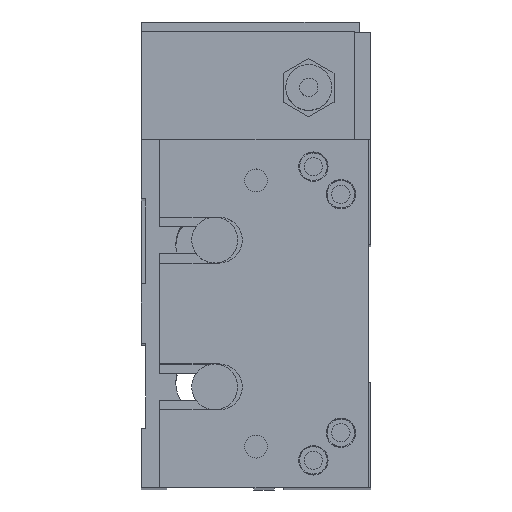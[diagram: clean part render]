
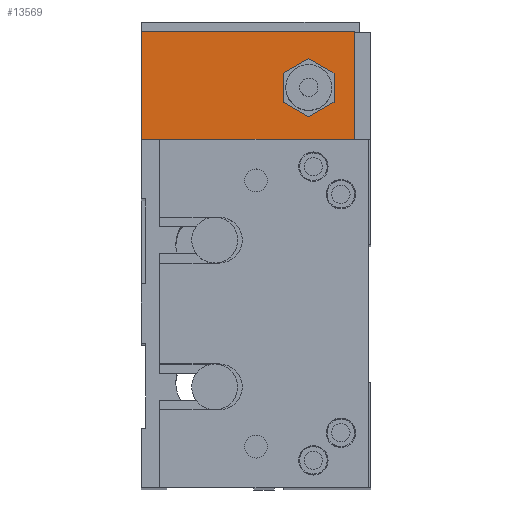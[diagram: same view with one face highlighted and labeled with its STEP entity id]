
A CAD part, top view. The second image highlights one B-rep face of the part: STEP entity #13569.
In plain terms, the highlighted planar face has unit normal (0, 0, 1).
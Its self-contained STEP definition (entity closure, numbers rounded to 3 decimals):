
#221 = CARTESIAN_POINT ( 'NONE',  ( 7.25, 36.5, 13. ) ) ;
#253 = AXIS2_PLACEMENT_3D ( 'NONE', #255, #302, #301 ) ;
#255 = CARTESIAN_POINT ( 'NONE',  ( 12.25, 36.5, 13. ) ) ;
#256 = CIRCLE ( 'NONE', #253, 5. ) ;
#273 = CARTESIAN_POINT ( 'NONE',  ( 17.25, 36.5, 13. ) ) ;
#301 = DIRECTION ( 'NONE',  ( -1., 0., 0. ) ) ;
#302 = DIRECTION ( 'NONE',  ( 0., 0., -1. ) ) ;
#396 = CARTESIAN_POINT ( 'NONE',  ( 0., 0., 13. ) ) ;
#397 = CARTESIAN_POINT ( 'NONE',  ( 24.5, 0., 13. ) ) ;
#398 = LINE ( 'NONE', #397, #432 ) ;
#416 = DIRECTION ( 'NONE',  ( 1., 0., 0. ) ) ;
#417 = VECTOR ( 'NONE', #416, 1000. ) ;
#418 = CARTESIAN_POINT ( 'NONE',  ( 0., 0., 13. ) ) ;
#419 = LINE ( 'NONE', #418, #417 ) ;
#431 = DIRECTION ( 'NONE',  ( 0., 1., 0. ) ) ;
#432 = VECTOR ( 'NONE', #431, 1000. ) ;
#456 = DIRECTION ( 'NONE',  ( 0., -1., 0. ) ) ;
#457 = VECTOR ( 'NONE', #456, 1000. ) ;
#458 = CARTESIAN_POINT ( 'NONE',  ( 0., 0., 13. ) ) ;
#459 = LINE ( 'NONE', #458, #457 ) ;
#470 = CARTESIAN_POINT ( 'NONE',  ( 24.5, 0., 13. ) ) ;
#472 = CARTESIAN_POINT ( 'NONE',  ( 12.25, 36.5, 13. ) ) ;
#473 = PLANE ( 'NONE',  #529 ) ;
#474 = FACE_BOUND ( 'NONE', #13499, .T. ) ;
#475 = DIRECTION ( 'NONE',  ( -1., 0., 0. ) ) ;
#476 = VECTOR ( 'NONE', #475, 1000. ) ;
#477 = CARTESIAN_POINT ( 'NONE',  ( 0., 46.5, 13. ) ) ;
#485 = LINE ( 'NONE', #477, #476 ) ;
#486 = DIRECTION ( 'NONE',  ( 0., 0., -1. ) ) ;
#487 = CARTESIAN_POINT ( 'NONE',  ( 0., 46.5, 13. ) ) ;
#494 = CIRCLE ( 'NONE', #526, 5. ) ;
#521 = CARTESIAN_POINT ( 'NONE',  ( 24.5, 46.5, 13. ) ) ;
#522 = DIRECTION ( 'NONE',  ( -1., 0., 0. ) ) ;
#524 = DIRECTION ( 'NONE',  ( -1., 0., 0. ) ) ;
#525 = DIRECTION ( 'NONE',  ( 0., 0., -1. ) ) ;
#526 = AXIS2_PLACEMENT_3D ( 'NONE', #472, #525, #524 ) ;
#529 = AXIS2_PLACEMENT_3D ( 'NONE', #487, #486, #522 ) ;
#531 = FACE_OUTER_BOUND ( 'NONE', #13562, .T. ) ;
#13426 = VERTEX_POINT ( 'NONE', #273 ) ;
#13427 = VERTEX_POINT ( 'NONE', #221 ) ;
#13433 = EDGE_CURVE ( 'NONE', #13426, #13427, #256, .T. ) ;
#13491 = VERTEX_POINT ( 'NONE', #396 ) ;
#13497 = EDGE_CURVE ( 'NONE', #13515, #13574, #398, .T. ) ;
#13499 = EDGE_LOOP ( 'NONE', ( #13523, #13552 ) ) ;
#13503 = EDGE_CURVE ( 'NONE', #13491, #13515, #419, .T. ) ;
#13515 = VERTEX_POINT ( 'NONE', #470 ) ;
#13518 = EDGE_CURVE ( 'NONE', #13535, #13491, #459, .T. ) ;
#13523 = ORIENTED_EDGE ( 'NONE', *, *, #13566, .T. ) ;
#13535 = VERTEX_POINT ( 'NONE', #32581 ) ;
#13552 = ORIENTED_EDGE ( 'NONE', *, *, #13433, .T. ) ;
#13554 = ORIENTED_EDGE ( 'NONE', *, *, #13497, .T. ) ;
#13555 = ORIENTED_EDGE ( 'NONE', *, *, #13503, .T. ) ;
#13556 = ORIENTED_EDGE ( 'NONE', *, *, #13560, .T. ) ;
#13560 = EDGE_CURVE ( 'NONE', #13574, #13535, #485, .T. ) ;
#13562 = EDGE_LOOP ( 'NONE', ( #13567, #13555, #13554, #13556 ) ) ;
#13566 = EDGE_CURVE ( 'NONE', #13427, #13426, #494, .T. ) ;
#13567 = ORIENTED_EDGE ( 'NONE', *, *, #13518, .T. ) ;
#13569 = ADVANCED_FACE ( 'NONE', ( #474, #531 ), #473, .F. ) ;
#13574 = VERTEX_POINT ( 'NONE', #521 ) ;
#32581 = CARTESIAN_POINT ( 'NONE',  ( 0., 46.5, 13. ) ) ;
